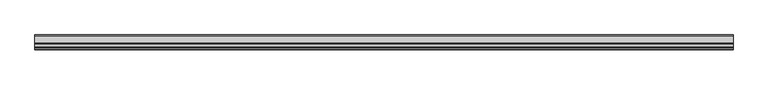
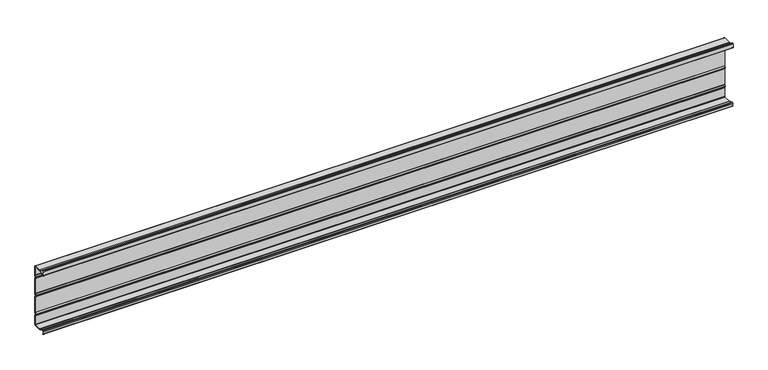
"""IFC4 building model written with IfcOpenShell, lengths in millimetres: plate geometry, HIANSA - H20.F09.006-CHAPA PERFILADA FACHADA HORIZONTAL - BANDEJA 90.380 - Panel de Muro Cortina : -."""

from ifc_helpers import new_model, si_unit, point, frame, frame_2d, origin, place, context, project, spatial, polyline, circle_curve, trimmed, segment, composite_curve, outline, extrude, source, transform, mapped, element, save


def plate_c359fdd5(model_context):
    return source(origin(), model_context, "Body", "SweptSolid", [
        extrude(outline(composite_curve([segment(trimmed(circle_curve(frame_2d((-86.7, 394.2)), 2.5), [point((-86.7, 396.7))], [point((-89.2, 394.2))], True, "CARTESIAN"), True, "CONTINUOUS"), segment(polyline([(-89.2, 394.2), (-89.2, 371.2)]), True, "CONTINUOUS"), segment(trimmed(circle_curve(frame_2d((-86.7, 371.2)), 2.5), [point((-89.2, 371.2))], [point((-86.7, 368.7))], True, "CARTESIAN"), True, "CONTINUOUS"), segment(polyline([(-86.7, 368.7), (-78.3893434, 368.7)]), True, "CONTINUOUS"), segment(trimmed(circle_curve(frame_2d((-78.3893434, 383.5)), 14.8), [point((-78.3893434, 368.7))], [point((-71.8825943, 370.2070614))], True, "CARTESIAN"), True, "CONTINUOUS"), segment(polyline([(-71.8825943, 370.2070614), (-54.3874507, 378.7707444)]), True, "CONTINUOUS"), segment(trimmed(circle_curve(frame_2d((-47.3531272, 364.4)), 16.0), [point((-54.3874507, 378.7707444))], [point((-47.3531272, 380.4))], False, "CARTESIAN"), True, "CONTINUOUS"), segment(polyline([(-47.3531272, 380.4), (-3.7, 380.4)]), True, "CONTINUOUS"), segment(trimmed(circle_curve(frame_2d((-3.7, 376.7)), 3.7), [point((-3.7, 380.4))], [point((0.0, 376.7))], False, "CARTESIAN"), True, "CONTINUOUS"), segment(polyline([(0.0, 376.7), (0.0, 321.0513067)]), True, "CONTINUOUS"), segment(trimmed(circle_curve(frame_2d((-3.7, 321.0513067)), 3.7), [point((0.0, 321.0513067))], [point((-0.6691374, 318.929074))], False, "CARTESIAN"), True, "CONTINUOUS"), segment(polyline([(-0.6691374, 318.929074), (-5.7772441, 311.633941)]), True, "CONTINUOUS"), segment(trimmed(circle_curve(frame_2d((-3.729364, 310.2)), 2.5), [point((-5.7772441, 311.633941))], [point((-5.7772441, 308.766059))], True, "CARTESIAN"), True, "CONTINUOUS"), segment(polyline([(-5.7772441, 308.766059), (-0.6691374, 301.470926)]), True, "CONTINUOUS"), segment(trimmed(circle_curve(frame_2d((-3.7, 299.3486933)), 3.7), [point((-0.6691374, 301.470926))], [point((0.0, 299.3486933))], False, "CARTESIAN"), True, "CONTINUOUS"), segment(polyline([(0.0, 299.3486933), (0.0, 201.0513067)]), True, "CONTINUOUS"), segment(trimmed(circle_curve(frame_2d((-3.7, 201.0513067)), 3.7), [point((0.0, 201.0513067))], [point((-0.6691374, 198.929074))], False, "CARTESIAN"), True, "CONTINUOUS"), segment(polyline([(-0.6691374, 198.929074), (-5.7772441, 191.633941)]), True, "CONTINUOUS"), segment(trimmed(circle_curve(frame_2d((-3.729364, 190.2)), 2.5), [point((-5.7772441, 191.633941))], [point((-5.7772441, 188.766059))], True, "CARTESIAN"), True, "CONTINUOUS"), segment(polyline([(-5.7772441, 188.766059), (-0.6691374, 181.470926)]), True, "CONTINUOUS"), segment(trimmed(circle_curve(frame_2d((-3.7, 179.3486933)), 3.7), [point((-0.6691374, 181.470926))], [point((0.0, 179.3486933))], False, "CARTESIAN"), True, "CONTINUOUS"), segment(polyline([(0.0, 179.3486933), (0.0, 81.0513067)]), True, "CONTINUOUS"), segment(trimmed(circle_curve(frame_2d((-3.7, 81.0513067)), 3.7), [point((0.0, 81.0513067))], [point((-0.6691374, 78.929074))], False, "CARTESIAN"), True, "CONTINUOUS"), segment(polyline([(-0.6691374, 78.929074), (-5.7772441, 71.633941)]), True, "CONTINUOUS"), segment(trimmed(circle_curve(frame_2d((-3.729364, 70.2)), 2.5), [point((-5.7772441, 71.633941))], [point((-5.7772441, 68.766059))], True, "CARTESIAN"), True, "CONTINUOUS"), segment(polyline([(-5.7772441, 68.766059), (-0.6691374, 61.470926)]), True, "CONTINUOUS"), segment(trimmed(circle_curve(frame_2d((-3.7, 59.3486933)), 3.7), [point((-0.6691374, 61.470926))], [point((0.0, 59.3486933))], False, "CARTESIAN"), True, "CONTINUOUS"), segment(polyline([(0.0, 59.3486933), (0.0, 3.7)]), True, "CONTINUOUS"), segment(trimmed(circle_curve(frame_2d((-3.7, 3.7)), 3.7), [point((0.0, 3.7))], [point((-3.7, 0.0))], False, "CARTESIAN"), True, "CONTINUOUS"), segment(polyline([(-3.7, 0.0), (-47.27269, 0.0)]), True, "CONTINUOUS"), segment(trimmed(circle_curve(frame_2d((-47.27269, 16.0)), 16.0), [point((-47.27269, 0.0))], [point((-53.7325404, 1.3620243))], False, "CARTESIAN"), True, "CONTINUOUS"), segment(polyline([(-53.7325404, 1.3620243), (-75.1611049, 10.8186135)]), True, "CONTINUOUS"), segment(trimmed(circle_curve(frame_2d((-80.192228, -3.1)), 14.8), [point((-75.1611049, 10.8186135))], [point((-80.192228, 11.7))], True, "CARTESIAN"), True, "CONTINUOUS"), segment(polyline([(-80.192228, 11.7), (-84.7, 11.7)]), True, "CONTINUOUS"), segment(trimmed(circle_curve(frame_2d((-84.7, 9.2)), 2.5), [point((-84.7, 11.7))], [point((-87.2, 9.2))], True, "CARTESIAN"), True, "CONTINUOUS"), segment(polyline([(-87.2, 9.2), (-87.2, -6.3)]), True, "CONTINUOUS"), segment(trimmed(circle_curve(frame_2d((-84.7, -6.3)), 2.5), [point((-87.2, -6.3))], [point((-84.7, -8.8))], True, "CARTESIAN"), True, "CONTINUOUS"), segment(polyline([(-84.7, -8.8), (-81.285, -8.8), (-81.285, -9.8), (-84.7, -9.8)]), True, "CONTINUOUS"), segment(trimmed(circle_curve(frame_2d((-84.7, -6.3)), 3.5), [point((-84.7, -9.8))], [point((-88.2, -6.3))], False, "CARTESIAN"), True, "CONTINUOUS"), segment(polyline([(-88.2, -6.3), (-88.2, 9.2)]), True, "CONTINUOUS"), segment(trimmed(circle_curve(frame_2d((-84.7, 9.2)), 3.5), [point((-88.2, 9.2))], [point((-84.7, 12.7))], False, "CARTESIAN"), True, "CONTINUOUS"), segment(polyline([(-84.7, 12.7), (-80.192228, 12.7)]), True, "CONTINUOUS"), segment(trimmed(circle_curve(frame_2d((-80.192228, -3.1)), 15.8), [point((-80.192228, 12.7))], [point((-74.7883097, 11.7471434))], False, "CARTESIAN"), True, "CONTINUOUS"), segment(polyline([(-74.7883097, 11.7471434), (-53.3287998, 2.2768978)]), True, "CONTINUOUS"), segment(trimmed(circle_curve(frame_2d((-47.27269, 16.0)), 15.0), [point((-53.3287998, 2.2768978))], [point((-47.27269, 1.0))], True, "CARTESIAN"), True, "CONTINUOUS"), segment(polyline([(-47.27269, 1.0), (-3.7, 1.0)]), True, "CONTINUOUS"), segment(trimmed(circle_curve(frame_2d((-3.7, 3.7)), 2.7), [point((-3.7, 1.0))], [point((-1.0, 3.7))], True, "CARTESIAN"), True, "CONTINUOUS"), segment(polyline([(-1.0, 3.7), (-1.0, 59.3486933)]), True, "CONTINUOUS"), segment(trimmed(circle_curve(frame_2d((-3.7, 59.3486933)), 2.7), [point((-1.0, 59.3486933))], [point((-1.4882894, 60.8973496))], True, "CARTESIAN"), True, "CONTINUOUS"), segment(polyline([(-1.4882894, 60.8973496), (-6.5963962, 68.1924826)]), True, "CONTINUOUS"), segment(trimmed(circle_curve(frame_2d((-3.729364, 70.2)), 3.5), [point((-6.5963962, 68.1924826))], [point((-6.5963962, 72.2075174))], False, "CARTESIAN"), True, "CONTINUOUS"), segment(polyline([(-6.5963962, 72.2075174), (-1.4882894, 79.5026504)]), True, "CONTINUOUS"), segment(trimmed(circle_curve(frame_2d((-3.7, 81.0513067)), 2.7), [point((-1.4882894, 79.5026504))], [point((-1.0, 81.0513067))], True, "CARTESIAN"), True, "CONTINUOUS"), segment(polyline([(-1.0, 81.0513067), (-1.0, 179.3486933)]), True, "CONTINUOUS"), segment(trimmed(circle_curve(frame_2d((-3.7, 179.3486933)), 2.7), [point((-1.0, 179.3486933))], [point((-1.4882894, 180.8973496))], True, "CARTESIAN"), True, "CONTINUOUS"), segment(polyline([(-1.4882894, 180.8973496), (-6.5963962, 188.1924826)]), True, "CONTINUOUS"), segment(trimmed(circle_curve(frame_2d((-3.729364, 190.2)), 3.5), [point((-6.5963962, 188.1924826))], [point((-6.5963962, 192.2075174))], False, "CARTESIAN"), True, "CONTINUOUS"), segment(polyline([(-6.5963962, 192.2075174), (-1.4882894, 199.5026504)]), True, "CONTINUOUS"), segment(trimmed(circle_curve(frame_2d((-3.7, 201.0513067)), 2.7), [point((-1.4882894, 199.5026504))], [point((-1.0, 201.0513067))], True, "CARTESIAN"), True, "CONTINUOUS"), segment(polyline([(-1.0, 201.0513067), (-1.0, 299.3486933)]), True, "CONTINUOUS"), segment(trimmed(circle_curve(frame_2d((-3.7, 299.3486933)), 2.7), [point((-1.0, 299.3486933))], [point((-1.4882894, 300.8973496))], True, "CARTESIAN"), True, "CONTINUOUS"), segment(polyline([(-1.4882894, 300.8973496), (-6.5963962, 308.1924826)]), True, "CONTINUOUS"), segment(trimmed(circle_curve(frame_2d((-3.729364, 310.2)), 3.5), [point((-6.5963962, 308.1924826))], [point((-6.5963962, 312.2075174))], False, "CARTESIAN"), True, "CONTINUOUS"), segment(polyline([(-6.5963962, 312.2075174), (-1.4882894, 319.5026504)]), True, "CONTINUOUS"), segment(trimmed(circle_curve(frame_2d((-3.7, 321.0513067)), 2.7), [point((-1.4882894, 319.5026504))], [point((-1.0, 321.0513067))], True, "CARTESIAN"), True, "CONTINUOUS"), segment(polyline([(-1.0, 321.0513067), (-1.0, 376.7)]), True, "CONTINUOUS"), segment(trimmed(circle_curve(frame_2d((-3.7, 376.7)), 2.7), [point((-1.0, 376.7))], [point((-3.7, 379.4))], True, "CARTESIAN"), True, "CONTINUOUS"), segment(polyline([(-3.7, 379.4), (-47.3531272, 379.4)]), True, "CONTINUOUS"), segment(trimmed(circle_curve(frame_2d((-47.3531272, 364.4)), 15.0), [point((-47.3531272, 379.4))], [point((-53.9478055, 377.8725729))], True, "CARTESIAN"), True, "CONTINUOUS"), segment(polyline([(-53.9478055, 377.8725729), (-71.442949, 369.3088899)]), True, "CONTINUOUS"), segment(trimmed(circle_curve(frame_2d((-78.3893434, 383.5)), 15.8), [point((-71.442949, 369.3088899))], [point((-78.3893434, 367.7))], False, "CARTESIAN"), True, "CONTINUOUS"), segment(polyline([(-78.3893434, 367.7), (-86.7, 367.7)]), True, "CONTINUOUS"), segment(trimmed(circle_curve(frame_2d((-86.7, 371.2)), 3.5), [point((-86.7, 367.7))], [point((-90.2, 371.2))], False, "CARTESIAN"), True, "CONTINUOUS"), segment(polyline([(-90.2, 371.2), (-90.2, 394.2)]), True, "CONTINUOUS"), segment(trimmed(circle_curve(frame_2d((-86.7, 394.2)), 3.5), [point((-90.2, 394.2))], [point((-86.7, 397.7))], False, "CARTESIAN"), True, "CONTINUOUS"), segment(polyline([(-86.7, 397.7), (-81.285, 397.7), (-81.285, 396.7), (-86.7, 396.7)]), True, "CONTINUOUS")], self_intersect=False)), frame((-2095.5, 0.0, 0.0), z_axis=(1.0, 0.0, 0.0), x_axis=(0.0, 1.0, 0.0)), (0.0, 0.0, 1.0), 4191.0),
    ])


if __name__ == "__main__":
    model = new_model("IFC4")
    model_context = context("Model", 3, world=origin())
    ifc_project = project(units=[si_unit("LENGTHUNIT", "METRE", prefix="MILLI")], contexts=[model_context])
    site = spatial("IfcSite", under=ifc_project)
    building = spatial("IfcBuilding", under=site)
    placement = place(None, origin())
    plate_shape = plate_c359fdd5(model_context)
    element("IfcPlate", 1, ObjectType="HIANSA - H20.F09.006-CHAPA PERFILADA FACHADA HORIZONTAL - BANDEJA 90.380 - Panel de Muro Cortina : -", at=placement, inside=building, context=model_context, shape_type="MappedRepresentation", body=[
        mapped(plate_shape, transform((0.0, 0.0, 0.0), x_axis=(1.0, 0.0, 0.0), y_axis=(0.0, 1.0, 0.0), z_axis=(0.0, 0.0, 1.0))),
    ])
    save(model, "model.ifc")
